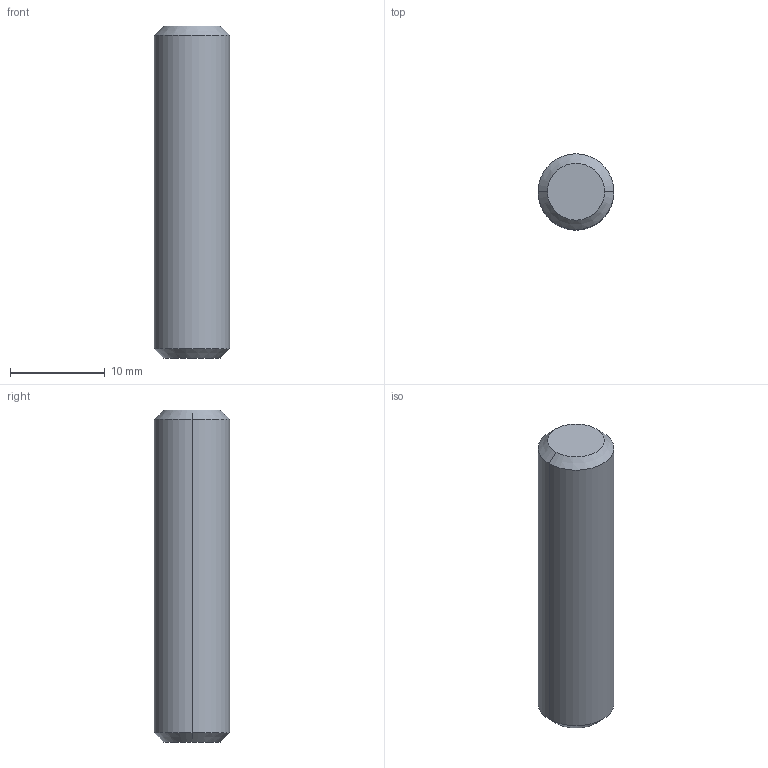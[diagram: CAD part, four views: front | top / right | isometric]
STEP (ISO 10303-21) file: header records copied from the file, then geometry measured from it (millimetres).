
FILE_DESCRIPTION (( 'STEP AP203' ), '1' );
FILE_NAME ('Structure support axe L35.STEP', '2025-09-18T11:53:51', ( '' ), ( '' ), 'SwSTEP 2.0', 'SolidWorks 2019', '' );
FILE_SCHEMA (( 'CONFIG_CONTROL_DESIGN' ));
Length unit declared in the file: millimetre
Products named in the file (1): Structure support axe L35
Bounding box: 8 x 8 x 35 mm (x, y, z)
Volume: 1736.3 mm3; surface area: 948.1 mm2
Topology: 1 solids, 1 shells, 8 faces, 14 edges, 8 vertices
Faces by surface type: cone 4, cylinder 2, plane 2
Entity records: 271 total; most frequent: DIRECTION 40, CARTESIAN_POINT 31, ORIENTED_EDGE 28, AXIS2_PLACEMENT_3D 17, EDGE_CURVE 14, EDGE_LOOP 8, VERTEX_POINT 8, FACE_OUTER_BOUND 8
